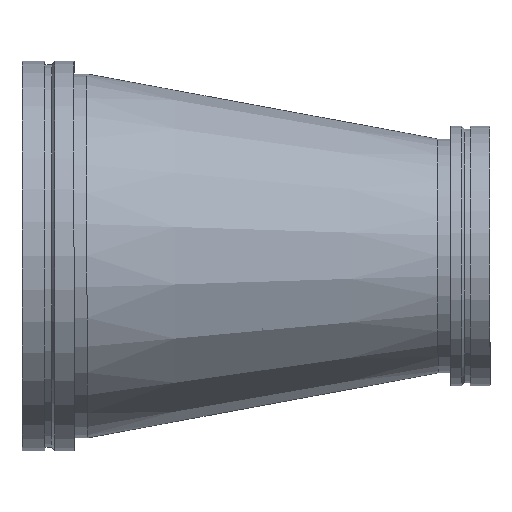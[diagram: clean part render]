
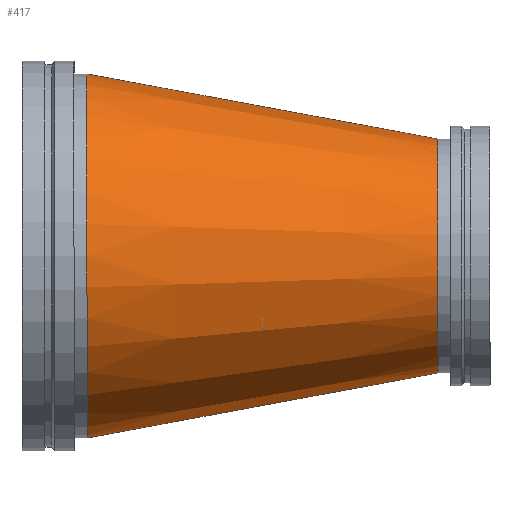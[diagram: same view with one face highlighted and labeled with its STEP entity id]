
A CAD part, top view. The second image highlights one B-rep face of the part: STEP entity #417.
In plain terms, the highlighted conical face has half-angle 10.491 degrees and reference radius 292.1 mm.
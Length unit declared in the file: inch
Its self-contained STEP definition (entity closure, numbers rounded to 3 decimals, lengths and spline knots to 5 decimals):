
#46=CONICAL_SURFACE('',#475,11.5,0.183);
#54=LINE('',#739,#68);
#68=VECTOR('',#587,11.5);
#101=FACE_OUTER_BOUND('',#124,.T.);
#124=EDGE_LOOP('',(#315,#316,#317,#318,#319,#320));
#155=CIRCLE('',#473,14.);
#156=CIRCLE('',#474,14.);
#157=CIRCLE('',#476,9.);
#158=CIRCLE('',#477,9.);
#195=VERTEX_POINT('',#729);
#196=VERTEX_POINT('',#730);
#197=VERTEX_POINT('',#735);
#198=VERTEX_POINT('',#736);
#239=EDGE_CURVE('',#195,#196,#155,.T.);
#240=EDGE_CURVE('',#196,#195,#156,.T.);
#242=EDGE_CURVE('',#197,#198,#157,.T.);
#243=EDGE_CURVE('',#198,#197,#158,.T.);
#244=EDGE_CURVE('',#198,#196,#54,.T.);
#315=ORIENTED_EDGE('',*,*,#242,.F.);
#316=ORIENTED_EDGE('',*,*,#243,.F.);
#317=ORIENTED_EDGE('',*,*,#244,.T.);
#318=ORIENTED_EDGE('',*,*,#240,.T.);
#319=ORIENTED_EDGE('',*,*,#239,.T.);
#320=ORIENTED_EDGE('',*,*,#244,.F.);
#417=ADVANCED_FACE('',(#101),#46,.T.);
#473=AXIS2_PLACEMENT_3D('',#731,#576,#577);
#474=AXIS2_PLACEMENT_3D('',#732,#578,#579);
#475=AXIS2_PLACEMENT_3D('',#734,#581,#582);
#476=AXIS2_PLACEMENT_3D('',#737,#583,#584);
#477=AXIS2_PLACEMENT_3D('',#738,#585,#586);
#576=DIRECTION('center_axis',(1.,0.,0.));
#577=DIRECTION('ref_axis',(0.,0.,-1.));
#578=DIRECTION('center_axis',(1.,0.,0.));
#579=DIRECTION('ref_axis',(0.,0.,-1.));
#581=DIRECTION('center_axis',(-1.,0.,0.));
#582=DIRECTION('ref_axis',(0.,1.,0.));
#583=DIRECTION('center_axis',(1.,0.,0.));
#584=DIRECTION('ref_axis',(0.,0.,-1.));
#585=DIRECTION('center_axis',(1.,0.,0.));
#586=DIRECTION('ref_axis',(0.,0.,-1.));
#587=DIRECTION('',(-0.983,-0.182,0.));
#729=CARTESIAN_POINT('',(5.,14.,0.));
#730=CARTESIAN_POINT('',(5.,-14.,0.));
#731=CARTESIAN_POINT('Origin',(5.,0.,0.));
#732=CARTESIAN_POINT('Origin',(5.,0.,0.));
#734=CARTESIAN_POINT('Origin',(18.5,0.,0.));
#735=CARTESIAN_POINT('',(32.,9.,0.));
#736=CARTESIAN_POINT('',(32.,-9.,0.));
#737=CARTESIAN_POINT('Origin',(32.,0.,0.));
#738=CARTESIAN_POINT('Origin',(32.,0.,0.));
#739=CARTESIAN_POINT('',(18.5,-11.5,0.));
